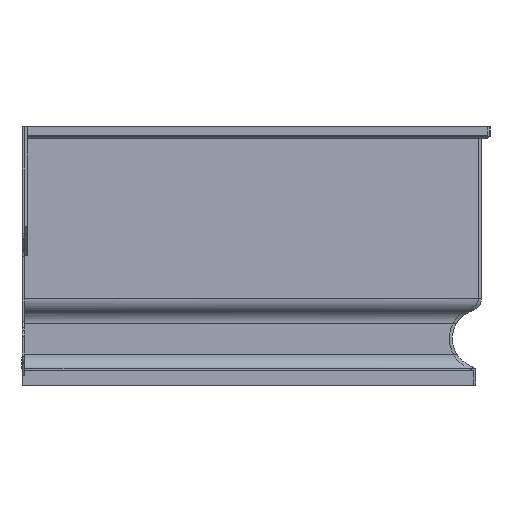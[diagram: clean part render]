
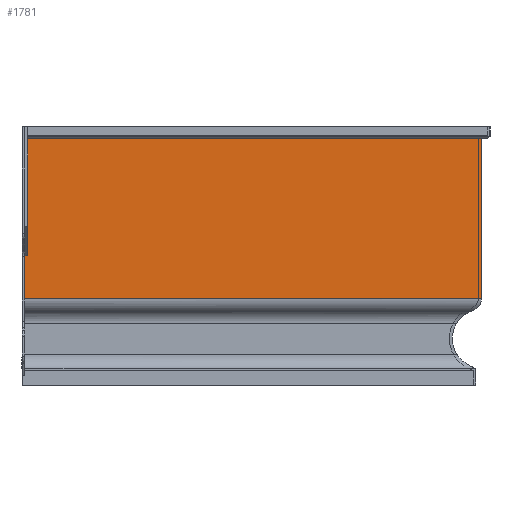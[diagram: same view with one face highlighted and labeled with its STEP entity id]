
A CAD part, left-side view. The second image highlights one B-rep face of the part: STEP entity #1781.
In plain terms, the highlighted planar face has unit normal (-1, 0, 0).
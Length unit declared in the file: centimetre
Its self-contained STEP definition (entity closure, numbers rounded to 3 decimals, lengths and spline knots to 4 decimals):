
#117=CIRCLE('',#1915,2.);
#171=FACE_OUTER_BOUND('',#271,.T.);
#271=EDGE_LOOP('',(#1428,#1429,#1430,#1431,#1432,#1433,#1434));
#433=LINE('',#2843,#626);
#435=LINE('',#2850,#628);
#455=LINE('',#2909,#648);
#457=LINE('',#2913,#650);
#458=LINE('',#2915,#651);
#459=LINE('',#2918,#652);
#626=VECTOR('',#2213,15.8375);
#628=VECTOR('',#2219,0.4);
#648=VECTOR('',#2267,61.5);
#650=VECTOR('',#2271,5.7984);
#651=VECTOR('',#2272,61.8907);
#652=VECTOR('',#2275,21.4431);
#817=VERTEX_POINT('',#2831);
#822=VERTEX_POINT('',#2841);
#824=VERTEX_POINT('',#2847);
#850=VERTEX_POINT('',#2908);
#851=VERTEX_POINT('',#2912);
#852=VERTEX_POINT('',#2914);
#853=VERTEX_POINT('',#2916);
#1032=EDGE_CURVE('',#817,#822,#433,.T.);
#1035=EDGE_CURVE('',#822,#824,#435,.T.);
#1065=EDGE_CURVE('',#850,#817,#455,.T.);
#1067=EDGE_CURVE('',#851,#824,#457,.T.);
#1068=EDGE_CURVE('',#852,#851,#458,.T.);
#1069=EDGE_CURVE('',#853,#852,#117,.T.);
#1070=EDGE_CURVE('',#853,#850,#459,.T.);
#1428=ORIENTED_EDGE('',*,*,#1032,.T.);
#1429=ORIENTED_EDGE('',*,*,#1035,.T.);
#1430=ORIENTED_EDGE('',*,*,#1067,.F.);
#1431=ORIENTED_EDGE('',*,*,#1068,.F.);
#1432=ORIENTED_EDGE('',*,*,#1069,.F.);
#1433=ORIENTED_EDGE('',*,*,#1070,.T.);
#1434=ORIENTED_EDGE('',*,*,#1065,.T.);
#1711=PLANE('',#1914);
#1781=ADVANCED_FACE('',(#171),#1711,.F.);
#1914=AXIS2_PLACEMENT_3D('',#2911,#2269,#2270);
#1915=AXIS2_PLACEMENT_3D('',#2917,#2273,#2274);
#2213=DIRECTION('',(0.,0.,-1.));
#2219=DIRECTION('',(0.,1.,0.));
#2267=DIRECTION('',(0.,1.,0.));
#2269=DIRECTION('center_axis',(1.,0.,0.));
#2270=DIRECTION('ref_axis',(0.,0.,-1.));
#2271=DIRECTION('',(0.,0.,1.));
#2272=DIRECTION('',(0.,1.,0.));
#2273=DIRECTION('center_axis',(1.,0.,0.));
#2274=DIRECTION('ref_axis',(0.,-0.816,-0.577));
#2275=DIRECTION('',(0.,0.,1.));
#2831=CARTESIAN_POINT('',(-65.9,-0.8,33.4));
#2841=CARTESIAN_POINT('',(-65.9,-0.8,17.5625));
#2843=CARTESIAN_POINT('',(-65.9,-0.8,22.4497));
#2847=CARTESIAN_POINT('',(-65.9,-0.4,17.5625));
#2850=CARTESIAN_POINT('',(-65.9,-15.6955,17.5625));
#2908=CARTESIAN_POINT('',(-65.9,-62.3,33.4));
#2909=CARTESIAN_POINT('',(-65.9,0.,33.4));
#2911=CARTESIAN_POINT('Origin',(-65.9,-30.991,17.8976));
#2912=CARTESIAN_POINT('',(-65.9,-0.4,11.7641));
#2913=CARTESIAN_POINT('',(-65.9,-0.4,17.8843));
#2914=CARTESIAN_POINT('',(-65.9,-62.2907,11.7641));
#2915=CARTESIAN_POINT('',(-65.9,-62.3,11.7641));
#2916=CARTESIAN_POINT('',(-65.9,-62.3,11.9569));
#2917=CARTESIAN_POINT('Origin',(-65.9,-60.3,11.9569));
#2918=CARTESIAN_POINT('',(-65.9,-62.3,33.4));
